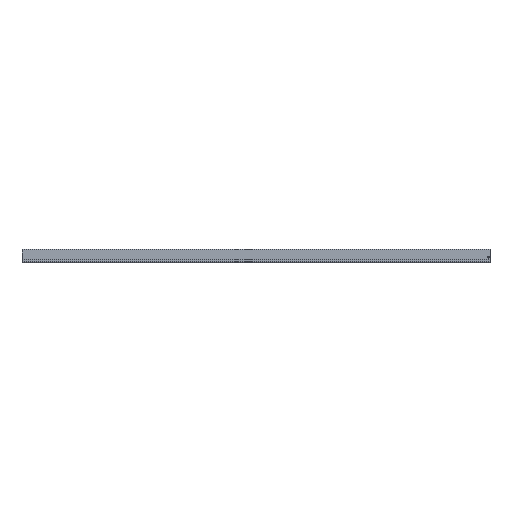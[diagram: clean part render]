
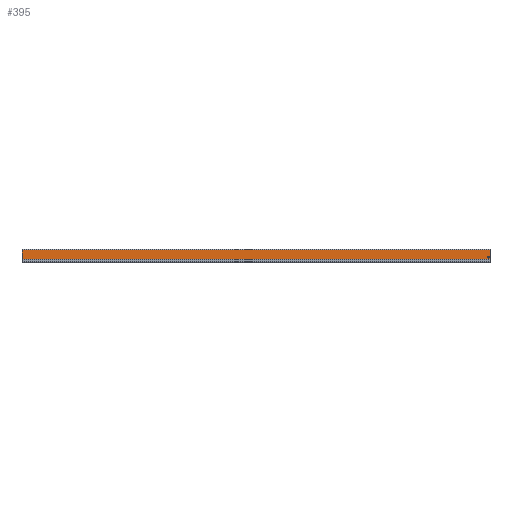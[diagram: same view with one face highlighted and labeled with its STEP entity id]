
A CAD part, top view. The second image highlights one B-rep face of the part: STEP entity #395.
In plain terms, the highlighted planar face has unit normal (0, 0, 1).
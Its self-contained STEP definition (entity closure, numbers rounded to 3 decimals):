
#34 = CARTESIAN_POINT ( 'NONE',  ( 0., 26.7, 0. ) ) ;
#106 = VECTOR ( 'NONE', #716, 1000. ) ;
#129 = CARTESIAN_POINT ( 'NONE',  ( 969., 11.392, 0. ) ) ;
#221 = CIRCLE ( 'NONE', #990, 1.85 ) ;
#223 = CARTESIAN_POINT ( 'NONE',  ( 0., 6.6, 0. ) ) ;
#245 = DIRECTION ( 'NONE',  ( -1., 0., 0. ) ) ;
#247 = CARTESIAN_POINT ( 'NONE',  ( 970., 6.6, 0. ) ) ;
#301 = CARTESIAN_POINT ( 'NONE',  ( 0., 0., 0. ) ) ;
#304 = EDGE_LOOP ( 'NONE', ( #1283, #992 ) ) ;
#312 = VECTOR ( 'NONE', #1100, 1000. ) ;
#395 = ADVANCED_FACE ( 'NONE', ( #1485, #1166 ), #1711, .F. ) ;
#407 = AXIS2_PLACEMENT_3D ( 'NONE', #1263, #1884, #1588 ) ;
#456 = CARTESIAN_POINT ( 'NONE',  ( 970., 0., 0. ) ) ;
#471 = CARTESIAN_POINT ( 'NONE',  ( 970., 0., 0. ) ) ;
#489 = CARTESIAN_POINT ( 'NONE',  ( 967.15, 11.392, 0. ) ) ;
#496 = VERTEX_POINT ( 'NONE', #1098 ) ;
#525 = LINE ( 'NONE', #456, #1605 ) ;
#534 = EDGE_CURVE ( 'NONE', #496, #2015, #525, .T. ) ;
#575 = DIRECTION ( 'NONE',  ( -1., 0., 0. ) ) ;
#663 = CARTESIAN_POINT ( 'NONE',  ( 965.3, 11.392, 0. ) ) ;
#716 = DIRECTION ( 'NONE',  ( 1., 0., 0. ) ) ;
#769 = LINE ( 'NONE', #1351, #1502 ) ;
#773 = DIRECTION ( 'NONE',  ( 0., 0., -1. ) ) ;
#990 = AXIS2_PLACEMENT_3D ( 'NONE', #489, #1445, #245 ) ;
#992 = ORIENTED_EDGE ( 'NONE', *, *, #1971, .F. ) ;
#1098 = CARTESIAN_POINT ( 'NONE',  ( 970., 26.7, 0. ) ) ;
#1100 = DIRECTION ( 'NONE',  ( 0., -1., 0. ) ) ;
#1155 = CARTESIAN_POINT ( 'NONE',  ( 0., 6.6, 0. ) ) ;
#1160 = VERTEX_POINT ( 'NONE', #223 ) ;
#1166 = FACE_OUTER_BOUND ( 'NONE', #1314, .T. ) ;
#1258 = DIRECTION ( 'NONE',  ( -1., 0., 0. ) ) ;
#1263 = CARTESIAN_POINT ( 'NONE',  ( 967.15, 11.392, 0. ) ) ;
#1283 = ORIENTED_EDGE ( 'NONE', *, *, #1524, .F. ) ;
#1314 = EDGE_LOOP ( 'NONE', ( #1579, #1641, #1645, #1430 ) ) ;
#1351 = CARTESIAN_POINT ( 'NONE',  ( 970., 26.7, 0. ) ) ;
#1430 = ORIENTED_EDGE ( 'NONE', *, *, #1831, .T. ) ;
#1445 = DIRECTION ( 'NONE',  ( 0., 0., 1. ) ) ;
#1452 = LINE ( 'NONE', #1155, #106 ) ;
#1485 = FACE_BOUND ( 'NONE', #304, .T. ) ;
#1502 = VECTOR ( 'NONE', #575, 1000. ) ;
#1524 = EDGE_CURVE ( 'NONE', #1765, #1599, #1723, .T. ) ;
#1577 = EDGE_CURVE ( 'NONE', #1798, #1160, #1602, .T. ) ;
#1579 = ORIENTED_EDGE ( 'NONE', *, *, #534, .F. ) ;
#1588 = DIRECTION ( 'NONE',  ( -1., 0., 0. ) ) ;
#1599 = VERTEX_POINT ( 'NONE', #129 ) ;
#1602 = LINE ( 'NONE', #301, #312 ) ;
#1605 = VECTOR ( 'NONE', #1702, 1000. ) ;
#1641 = ORIENTED_EDGE ( 'NONE', *, *, #1855, .T. ) ;
#1645 = ORIENTED_EDGE ( 'NONE', *, *, #1577, .T. ) ;
#1674 = AXIS2_PLACEMENT_3D ( 'NONE', #471, #773, #1258 ) ;
#1702 = DIRECTION ( 'NONE',  ( 0., -1., 0. ) ) ;
#1711 = PLANE ( 'NONE',  #1674 ) ;
#1723 = CIRCLE ( 'NONE', #407, 1.85 ) ;
#1765 = VERTEX_POINT ( 'NONE', #663 ) ;
#1798 = VERTEX_POINT ( 'NONE', #34 ) ;
#1831 = EDGE_CURVE ( 'NONE', #1160, #2015, #1452, .T. ) ;
#1855 = EDGE_CURVE ( 'NONE', #496, #1798, #769, .T. ) ;
#1884 = DIRECTION ( 'NONE',  ( 0., 0., 1. ) ) ;
#1971 = EDGE_CURVE ( 'NONE', #1599, #1765, #221, .T. ) ;
#2015 = VERTEX_POINT ( 'NONE', #247 ) ;
